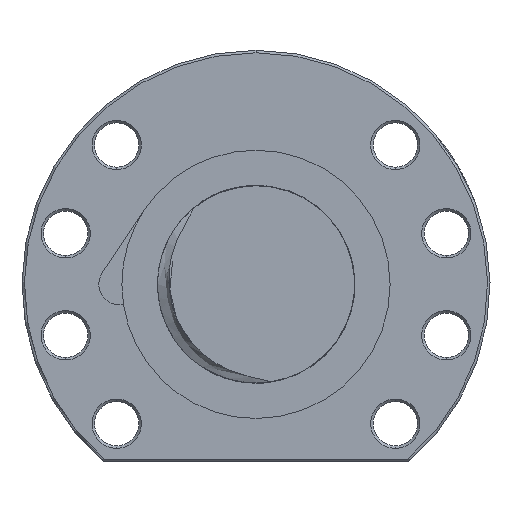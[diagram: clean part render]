
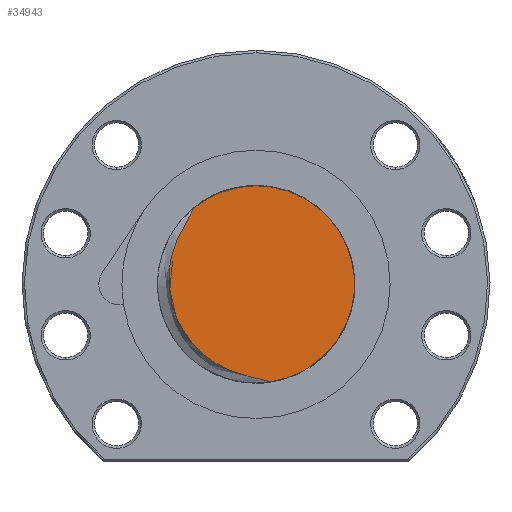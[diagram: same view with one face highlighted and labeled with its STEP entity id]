
A CAD part, left-side view. The second image highlights one B-rep face of the part: STEP entity #34943.
In plain terms, the highlighted planar face has unit normal (-1, 0, 0).
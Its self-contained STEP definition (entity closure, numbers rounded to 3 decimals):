
#8538 = CARTESIAN_POINT ( 'NONE',  ( -301., 0., 20. ) ) ;
#8544 = CARTESIAN_POINT ( 'NONE',  ( -301., 12.631, 15.507 ) ) ;
#8591 = DIRECTION ( 'NONE',  ( 0., 1., 0. ) ) ;
#8592 = DIRECTION ( 'NONE',  ( 1., 0., 0. ) ) ;
#8593 = AXIS2_PLACEMENT_3D ( 'NONE', #8599, #8592, #8591 ) ;
#8594 = CIRCLE ( 'NONE', #8593, 20. ) ;
#8599 = CARTESIAN_POINT ( 'NONE',  ( -301., 0., 0. ) ) ;
#16099 = CARTESIAN_POINT ( 'NONE',  ( -301., 12.139, -12.87 ) ) ;
#16100 = CARTESIAN_POINT ( 'NONE',  ( -301., 13.459, -11.375 ) ) ;
#16101 = CARTESIAN_POINT ( 'NONE',  ( -301., 14.069, -10.567 ) ) ;
#16102 = CARTESIAN_POINT ( 'NONE',  ( -301., 15.145, -8.89 ) ) ;
#16103 = CARTESIAN_POINT ( 'NONE',  ( -301., 15.615, -8.017 ) ) ;
#16104 = CARTESIAN_POINT ( 'NONE',  ( -301., 16.22, -6.654 ) ) ;
#16105 = CARTESIAN_POINT ( 'NONE',  ( -301., 16.405, -6.191 ) ) ;
#16106 = CARTESIAN_POINT ( 'NONE',  ( -301., 16.74, -5.248 ) ) ;
#16107 = CARTESIAN_POINT ( 'NONE',  ( -301., 16.89, -4.766 ) ) ;
#16108 = CARTESIAN_POINT ( 'NONE',  ( -301., 17.281, -3.318 ) ) ;
#16109 = CARTESIAN_POINT ( 'NONE',  ( -301., 17.466, -2.344 ) ) ;
#16110 = CARTESIAN_POINT ( 'NONE',  ( -301., 17.688, -0.38 ) ) ;
#16111 = CARTESIAN_POINT ( 'NONE',  ( -301., 17.726, 0.611 ) ) ;
#16112 = CARTESIAN_POINT ( 'NONE',  ( -301., 17.672, 2.109 ) ) ;
#16113 = CARTESIAN_POINT ( 'NONE',  ( -301., 17.635, 2.613 ) ) ;
#16114 = CARTESIAN_POINT ( 'NONE',  ( -301., 17.526, 3.607 ) ) ;
#16115 = CARTESIAN_POINT ( 'NONE',  ( -301., 17.454, 4.1 ) ) ;
#16116 = CARTESIAN_POINT ( 'NONE',  ( -301., 17.186, 5.564 ) ) ;
#16117 = CARTESIAN_POINT ( 'NONE',  ( -301., 16.939, 6.522 ) ) ;
#16118 = CARTESIAN_POINT ( 'NONE',  ( -301., 16.32, 8.405 ) ) ;
#16119 = CARTESIAN_POINT ( 'NONE',  ( -301., 15.946, 9.332 ) ) ;
#16120 = CARTESIAN_POINT ( 'NONE',  ( -301., 15.092, 11.147 ) ) ;
#16121 = CARTESIAN_POINT ( 'NONE',  ( -301., 14.612, 12.026 ) ) ;
#16122 = CARTESIAN_POINT ( 'NONE',  ( -301., 13.853, 13.323 ) ) ;
#16123 = CARTESIAN_POINT ( 'NONE',  ( -301., 13.594, 13.752 ) ) ;
#16124 = CARTESIAN_POINT ( 'NONE',  ( -301., 13.212, 14.399 ) ) ;
#16125 = CARTESIAN_POINT ( 'NONE',  ( -301., 13.086, 14.616 ) ) ;
#16126 = CARTESIAN_POINT ( 'NONE',  ( -301., 12.844, 15.055 ) ) ;
#16127 = CARTESIAN_POINT ( 'NONE',  ( -301., 12.728, 15.277 ) ) ;
#16128 = CARTESIAN_POINT ( 'NONE',  ( -301., 12.631, 15.507 ) ) ;
#16131 = B_SPLINE_CURVE_WITH_KNOTS ( 'NONE', 3,
 ( #16128, #16127, #16126, #16125, #16124, #16123, #16122, #16121, #16120, #16119, #16118, #16117, #16116, #16115, #16114, #16113, #16112, #16111, #16110, #16109, #16108, #16107, #16106, #16105, #16104, #16103, #16102, #16101, #16100, #16099, #16547, #16546, #16545, #16544, #16543, #16542, #16541, #16540, #16539, #16538, #16537, #16536, #16535, #16534, #16533, #16532 ),
 .UNSPECIFIED., .F., .F.,
 ( 4, 2, 2, 2, 2, 2, 2, 2, 2, 2, 2, 2, 2, 2, 2, 2, 2, 2, 2, 2, 2, 2, 4 ),
 ( 0.011, 0.012, 0.012, 0.014, 0.017, 0.02, 0.023, 0.024, 0.025, 0.028, 0.031, 0.033, 0.034, 0.037, 0.04, 0.043, 0.045, 0.046, 0.052, 0.055, 0.056, 0.057, 0.058 ),
 .UNSPECIFIED. ) ;
#16324 = DIRECTION ( 'NONE',  ( 0., 0., -1. ) ) ;
#16325 = DIRECTION ( 'NONE',  ( 1., 0., 0. ) ) ;
#16326 = CARTESIAN_POINT ( 'NONE',  ( -301., 0., 0. ) ) ;
#16327 = AXIS2_PLACEMENT_3D ( 'NONE', #16326, #16325, #16324 ) ;
#16328 = PLANE ( 'NONE',  #16327 ) ;
#16333 = FACE_OUTER_BOUND ( 'NONE', #34948, .T. ) ;
#16532 = CARTESIAN_POINT ( 'NONE',  ( -301., -3.072, -19.763 ) ) ;
#16533 = CARTESIAN_POINT ( 'NONE',  ( -301., -2.835, -19.681 ) ) ;
#16534 = CARTESIAN_POINT ( 'NONE',  ( -301., -2.592, -19.619 ) ) ;
#16535 = CARTESIAN_POINT ( 'NONE',  ( -301., -2.103, -19.504 ) ) ;
#16536 = CARTESIAN_POINT ( 'NONE',  ( -301., -1.857, -19.453 ) ) ;
#16537 = CARTESIAN_POINT ( 'NONE',  ( -301., -1.12, -19.303 ) ) ;
#16538 = CARTESIAN_POINT ( 'NONE',  ( -301., -0.627, -19.209 ) ) ;
#16539 = CARTESIAN_POINT ( 'NONE',  ( -301., 0.847, -18.904 ) ) ;
#16540 = CARTESIAN_POINT ( 'NONE',  ( -301., 1.823, -18.672 ) ) ;
#16541 = CARTESIAN_POINT ( 'NONE',  ( -301., 4.707, -17.802 ) ) ;
#16542 = CARTESIAN_POINT ( 'NONE',  ( -301., 6.533, -17.009 ) ) ;
#16543 = CARTESIAN_POINT ( 'NONE',  ( -301., 8.661, -15.696 ) ) ;
#16544 = CARTESIAN_POINT ( 'NONE',  ( -301., 9.08, -15.415 ) ) ;
#16545 = CARTESIAN_POINT ( 'NONE',  ( -301., 9.892, -14.829 ) ) ;
#16546 = CARTESIAN_POINT ( 'NONE',  ( -301., 10.285, -14.522 ) ) ;
#16547 = CARTESIAN_POINT ( 'NONE',  ( -301., 11.427, -13.562 ) ) ;
#22849 = DIRECTION ( 'NONE',  ( 0., 1., 0. ) ) ;
#22850 = DIRECTION ( 'NONE',  ( 1., 0., 0. ) ) ;
#22851 = CARTESIAN_POINT ( 'NONE',  ( -301., 0., 0. ) ) ;
#22852 = AXIS2_PLACEMENT_3D ( 'NONE', #22851, #22850, #22849 ) ;
#22853 = CIRCLE ( 'NONE', #22852, 20. ) ;
#22861 = CARTESIAN_POINT ( 'NONE',  ( -301., -3.072, -19.763 ) ) ;
#34942 = ORIENTED_EDGE ( 'NONE', *, *, #36275, .F. ) ;
#34943 = ADVANCED_FACE ( 'NONE', ( #16333 ), #16328, .F. ) ;
#34948 = EDGE_LOOP ( 'NONE', ( #34942, #34964, #34965 ) ) ;
#34963 = EDGE_CURVE ( 'NONE', #36267, #37113, #16131, .T. ) ;
#34964 = ORIENTED_EDGE ( 'NONE', *, *, #34963, .T. ) ;
#34965 = ORIENTED_EDGE ( 'NONE', *, *, #37115, .F. ) ;
#36267 = VERTEX_POINT ( 'NONE', #8544 ) ;
#36270 = VERTEX_POINT ( 'NONE', #8538 ) ;
#36275 = EDGE_CURVE ( 'NONE', #36267, #36270, #8594, .T. ) ;
#37113 = VERTEX_POINT ( 'NONE', #22861 ) ;
#37115 = EDGE_CURVE ( 'NONE', #36270, #37113, #22853, .T. ) ;
